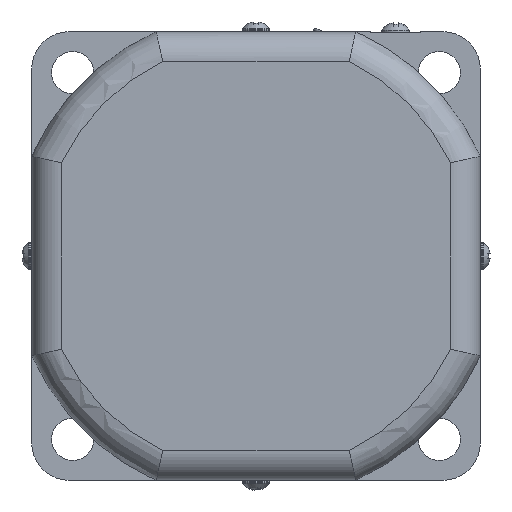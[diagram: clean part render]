
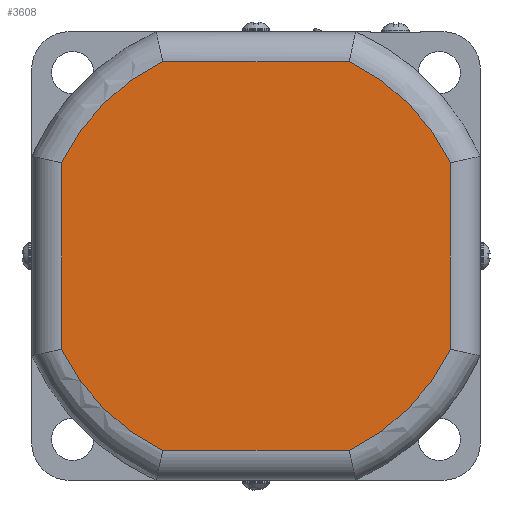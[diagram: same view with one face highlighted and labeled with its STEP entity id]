
A CAD part, left-side view. The second image highlights one B-rep face of the part: STEP entity #3608.
In plain terms, the highlighted planar face has unit normal (-1, 0, 0) as drawn and (0, 0, -1) by its records, which use the part's own axes.
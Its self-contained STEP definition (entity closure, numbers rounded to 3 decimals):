
#187=PLANE('',#4018);
#363=FACE_OUTER_BOUND('',#593,.T.);
#593=EDGE_LOOP('',(#2906,#2907,#2908,#2909,#2910,#2911,#2912,#2913));
#790=CIRCLE('',#4004,43.25);
#791=CIRCLE('',#4008,43.25);
#794=CIRCLE('',#4012,43.25);
#795=CIRCLE('',#4016,43.25);
#988=LINE('',#6170,#1271);
#991=LINE('',#6190,#1274);
#992=LINE('',#6243,#1275);
#993=LINE('',#6260,#1276);
#1271=VECTOR('',#4686,37.393);
#1274=VECTOR('',#4691,37.393);
#1275=VECTOR('',#4706,37.393);
#1276=VECTOR('',#4709,37.393);
#1677=VERTEX_POINT('',#6120);
#1679=VERTEX_POINT('',#6137);
#1681=VERTEX_POINT('',#6155);
#1683=VERTEX_POINT('',#6174);
#1684=VERTEX_POINT('',#6192);
#1685=VERTEX_POINT('',#6210);
#1686=VERTEX_POINT('',#6228);
#1687=VERTEX_POINT('',#6245);
#2109=EDGE_CURVE('',#1679,#1677,#790,.T.);
#2111=EDGE_CURVE('',#1681,#1679,#988,.T.);
#2115=EDGE_CURVE('',#1677,#1683,#991,.T.);
#2117=EDGE_CURVE('',#1684,#1681,#791,.T.);
#2121=EDGE_CURVE('',#1683,#1685,#794,.T.);
#2123=EDGE_CURVE('',#1686,#1684,#992,.T.);
#2125=EDGE_CURVE('',#1685,#1687,#993,.T.);
#2126=EDGE_CURVE('',#1687,#1686,#795,.T.);
#2906=ORIENTED_EDGE('',*,*,#2125,.F.);
#2907=ORIENTED_EDGE('',*,*,#2121,.F.);
#2908=ORIENTED_EDGE('',*,*,#2115,.F.);
#2909=ORIENTED_EDGE('',*,*,#2109,.F.);
#2910=ORIENTED_EDGE('',*,*,#2111,.F.);
#2911=ORIENTED_EDGE('',*,*,#2117,.F.);
#2912=ORIENTED_EDGE('',*,*,#2123,.F.);
#2913=ORIENTED_EDGE('',*,*,#2126,.F.);
#3608=ADVANCED_FACE('',(#363),#187,.F.);
#4004=AXIS2_PLACEMENT_3D('',#6152,#4682,#4683);
#4008=AXIS2_PLACEMENT_3D('',#6207,#4694,#4695);
#4012=AXIS2_PLACEMENT_3D('',#6226,#4702,#4703);
#4016=AXIS2_PLACEMENT_3D('',#6262,#4712,#4713);
#4018=AXIS2_PLACEMENT_3D('',#6264,#4716,#4717);
#4682=DIRECTION('center_axis',(0.,0.,1.));
#4683=DIRECTION('ref_axis',(0.707,-0.707,0.));
#4686=DIRECTION('',(1.,0.,0.));
#4691=DIRECTION('',(0.,1.,0.));
#4694=DIRECTION('center_axis',(0.,0.,1.));
#4695=DIRECTION('ref_axis',(-0.707,-0.707,0.));
#4702=DIRECTION('center_axis',(0.,0.,1.));
#4703=DIRECTION('ref_axis',(0.707,0.707,0.));
#4706=DIRECTION('',(0.,-1.,0.));
#4709=DIRECTION('',(-1.,0.,0.));
#4712=DIRECTION('center_axis',(0.,0.,1.));
#4713=DIRECTION('ref_axis',(-0.707,0.707,0.));
#4716=DIRECTION('center_axis',(0.,0.,1.));
#4717=DIRECTION('ref_axis',(1.,0.,0.));
#6120=CARTESIAN_POINT('',(39.,-18.697,0.));
#6137=CARTESIAN_POINT('',(18.697,-39.,0.));
#6152=CARTESIAN_POINT('Origin',(0.,0.,0.));
#6155=CARTESIAN_POINT('',(-18.697,-39.,0.));
#6170=CARTESIAN_POINT('',(-18.697,-39.,0.));
#6174=CARTESIAN_POINT('',(39.,18.697,0.));
#6190=CARTESIAN_POINT('',(39.,-18.697,0.));
#6192=CARTESIAN_POINT('',(-39.,-18.697,0.));
#6207=CARTESIAN_POINT('Origin',(0.,0.,0.));
#6210=CARTESIAN_POINT('',(18.697,39.,0.));
#6226=CARTESIAN_POINT('Origin',(0.,0.,0.));
#6228=CARTESIAN_POINT('',(-39.,18.697,0.));
#6243=CARTESIAN_POINT('',(-39.,18.697,0.));
#6245=CARTESIAN_POINT('',(-18.697,39.,0.));
#6260=CARTESIAN_POINT('',(18.697,39.,0.));
#6262=CARTESIAN_POINT('Origin',(0.,0.,0.));
#6264=CARTESIAN_POINT('Origin',(0.,0.,0.));
